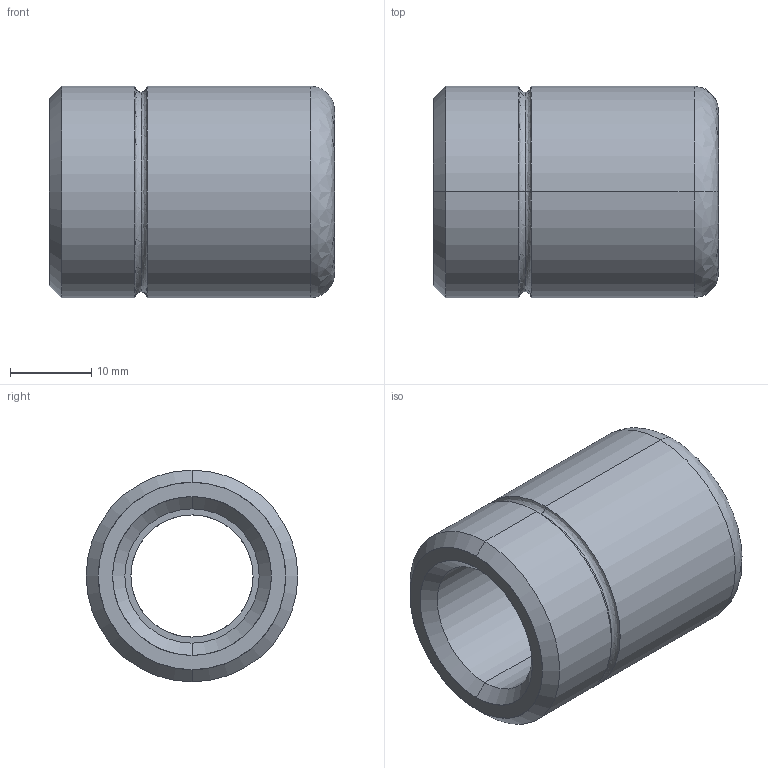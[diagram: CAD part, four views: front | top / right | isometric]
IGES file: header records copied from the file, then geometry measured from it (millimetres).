
Start section: START RECORD GO HERE.
Global section: file name: 347-15 x 35.igs; native system: DASSAULT SYSTEMES CATIA V5 R20 - www.3ds.com; preprocessor: CATIA Version 5 Release 20 ; author: Utente; organization: NB04-ASUS; date: 20210101.110658; units: millimetre
Bounding box: 35 x 26 x 26 mm (x, y, z)
Surface area: 5217.6 mm2 (no closed solid volume)
Topology: 0 solids, 0 shells, 29 faces, 172 edges, 172 vertices
Faces by surface type: revolution 26, plane 3
